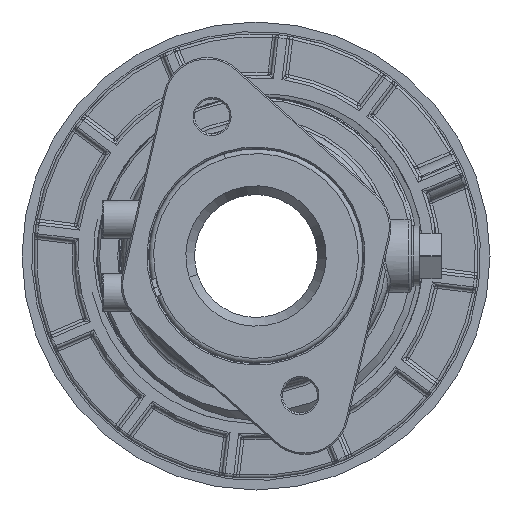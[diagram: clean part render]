
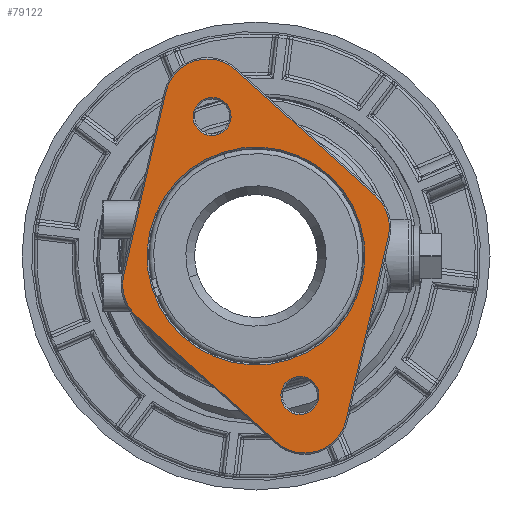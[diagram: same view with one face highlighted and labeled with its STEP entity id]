
A CAD part, front view. The second image highlights one B-rep face of the part: STEP entity #79122.
In plain terms, the highlighted planar face has unit normal (0, -1, 0).
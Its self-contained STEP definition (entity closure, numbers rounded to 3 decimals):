
#624 = DIRECTION ( 'NONE',  ( 0.954, 0., 0.3 ) ) ;
#645 = CIRCLE ( 'NONE', #99976, 14.5 ) ;
#1288 = CIRCLE ( 'NONE', #70374, 6.5 ) ;
#1531 = LINE ( 'NONE', #87776, #85499 ) ;
#1715 = DIRECTION ( 'NONE',  ( 0., -1., 0. ) ) ;
#3174 = VERTEX_POINT ( 'NONE', #93128 ) ;
#8175 = ORIENTED_EDGE ( 'NONE', *, *, #17943, .T. ) ;
#9799 = EDGE_CURVE ( 'NONE', #89991, #42649, #67477, .T. ) ;
#10251 = CARTESIAN_POINT ( 'NONE',  ( -30.46, -88.004, 49.677 ) ) ;
#11202 = ORIENTED_EDGE ( 'NONE', *, *, #81488, .T. ) ;
#11583 = VECTOR ( 'NONE', #19047, 1000. ) ;
#12299 = VERTEX_POINT ( 'NONE', #37599 ) ;
#12902 = CARTESIAN_POINT ( 'NONE',  ( -0.441, -88.004, -45.71 ) ) ;
#13115 = ORIENTED_EDGE ( 'NONE', *, *, #85535, .T. ) ;
#13117 = AXIS2_PLACEMENT_3D ( 'NONE', #93410, #44833, #101630 ) ;
#13726 = EDGE_CURVE ( 'NONE', #85633, #103219, #33289, .T. ) ;
#16445 = EDGE_CURVE ( 'NONE', #59158, #99025, #47020, .T. ) ;
#16960 = VERTEX_POINT ( 'NONE', #78621 ) ;
#17943 = EDGE_CURVE ( 'NONE', #99025, #59158, #96279, .T. ) ;
#18451 = DIRECTION ( 'NONE',  ( 0.954, 0., 0.3 ) ) ;
#19047 = DIRECTION ( 'NONE',  ( 0.225, 0., 0.974 ) ) ;
#19513 = ORIENTED_EDGE ( 'NONE', *, *, #73453, .T. ) ;
#21115 = DIRECTION ( 'NONE',  ( 0.954, 0., 0.3 ) ) ;
#22645 = ORIENTED_EDGE ( 'NONE', *, *, #33401, .T. ) ;
#23661 = CARTESIAN_POINT ( 'NONE',  ( -46.544, -88.004, -7.802 ) ) ;
#24211 = VECTOR ( 'NONE', #94409, 1000. ) ;
#25877 = DIRECTION ( 'NONE',  ( 0., -1., 0. ) ) ;
#28121 = AXIS2_PLACEMENT_3D ( 'NONE', #50527, #1715, #58678 ) ;
#28308 = DIRECTION ( 'NONE',  ( 0., 1., 0. ) ) ;
#28672 = ORIENTED_EDGE ( 'NONE', *, *, #52941, .T. ) ;
#29034 = VERTEX_POINT ( 'NONE', #34587 ) ;
#29112 = CARTESIAN_POINT ( 'NONE',  ( 13.088, -88.004, 33.607 ) ) ;
#29321 = ORIENTED_EDGE ( 'NONE', *, *, #45189, .T. ) ;
#31286 = DIRECTION ( 'NONE',  ( -0.225, 0., -0.974 ) ) ;
#31826 = DIRECTION ( 'NONE',  ( 0.954, 0., 0.3 ) ) ;
#33289 = LINE ( 'NONE', #58206, #11583 ) ;
#33401 = EDGE_CURVE ( 'NONE', #39825, #3174, #53544, .T. ) ;
#33607 = DIRECTION ( 'NONE',  ( 0., 1., 0. ) ) ;
#34587 = CARTESIAN_POINT ( 'NONE',  ( 25.358, -88.004, 22.534 ) ) ;
#34686 = AXIS2_PLACEMENT_3D ( 'NONE', #41181, #97959, #49336 ) ;
#35803 = ORIENTED_EDGE ( 'NONE', *, *, #47780, .T. ) ;
#35867 = ORIENTED_EDGE ( 'NONE', *, *, #13726, .T. ) ;
#37599 = CARTESIAN_POINT ( 'NONE',  ( -60.376, -88.004, -12.155 ) ) ;
#38104 = CARTESIAN_POINT ( 'NONE',  ( -46.544, -88.004, -7.802 ) ) ;
#38504 = DIRECTION ( 'NONE',  ( 0., 1., 0. ) ) ;
#39825 = VERTEX_POINT ( 'NONE', #84712 ) ;
#41181 = CARTESIAN_POINT ( 'NONE',  ( -32.086, -88.004, 54.843 ) ) ;
#41352 = EDGE_LOOP ( 'NONE', ( #8175, #55582 ) ) ;
#41654 = CARTESIAN_POINT ( 'NONE',  ( 15.314, -88.004, -54.137 ) ) ;
#42649 = VERTEX_POINT ( 'NONE', #84180 ) ;
#44833 = DIRECTION ( 'NONE',  ( 0., 1., 0. ) ) ;
#45189 = EDGE_CURVE ( 'NONE', #29034, #39825, #90624, .T. ) ;
#45663 = CIRCLE ( 'NONE', #78556, 14.5 ) ;
#45757 = CARTESIAN_POINT ( 'NONE',  ( 20.081, -88.004, 13.166 ) ) ;
#46302 = DIRECTION ( 'NONE',  ( 0.954, 0., 0.3 ) ) ;
#47020 = CIRCLE ( 'NONE', #50433, 6.5 ) ;
#47498 = VECTOR ( 'NONE', #77856, 1000. ) ;
#47780 = EDGE_CURVE ( 'NONE', #68113, #12299, #645, .T. ) ;
#49336 = DIRECTION ( 'NONE',  ( 0.954, 0., 0.3 ) ) ;
#49439 = DIRECTION ( 'NONE',  ( 0., -1., 0. ) ) ;
#49452 = FACE_BOUND ( 'NONE', #41352, .T. ) ;
#50433 = AXIS2_PLACEMENT_3D ( 'NONE', #10251, #67199, #18451 ) ;
#50527 = CARTESIAN_POINT ( 'NONE',  ( 15.643, -88.004, 11.769 ) ) ;
#50558 = EDGE_CURVE ( 'NONE', #62832, #87520, #90516, .T. ) ;
#52002 = FACE_BOUND ( 'NONE', #53040, .T. ) ;
#52941 = EDGE_CURVE ( 'NONE', #87520, #62832, #1288, .T. ) ;
#53040 = EDGE_LOOP ( 'NONE', ( #104456, #28672 ) ) ;
#53544 = CIRCLE ( 'NONE', #34686, 14.5 ) ;
#54947 = CARTESIAN_POINT ( 'NONE',  ( -56.259, -88.004, -18.567 ) ) ;
#55582 = ORIENTED_EDGE ( 'NONE', *, *, #16445, .T. ) ;
#57553 = PLANE ( 'NONE',  #76214 ) ;
#58206 = CARTESIAN_POINT ( 'NONE',  ( 26.055, -88.004, -7.596 ) ) ;
#58678 = DIRECTION ( 'NONE',  ( 0.954, 0., 0.3 ) ) ;
#59158 = VERTEX_POINT ( 'NONE', #75314 ) ;
#59231 = CARTESIAN_POINT ( 'NONE',  ( -24.26, -88.004, 51.629 ) ) ;
#62037 = EDGE_LOOP ( 'NONE', ( #22645, #13115, #35803, #64986, #75523, #93940, #35867, #11202, #29321 ) ) ;
#62832 = VERTEX_POINT ( 'NONE', #78923 ) ;
#64986 = ORIENTED_EDGE ( 'NONE', *, *, #88163, .T. ) ;
#66828 = AXIS2_PLACEMENT_3D ( 'NONE', #12902, #69851, #21115 ) ;
#67199 = DIRECTION ( 'NONE',  ( 0., 1., 0. ) ) ;
#67477 = LINE ( 'NONE', #78107, #24211 ) ;
#67596 = CIRCLE ( 'NONE', #100171, 37.25 ) ;
#68113 = VERTEX_POINT ( 'NONE', #96298 ) ;
#68169 = EDGE_CURVE ( 'NONE', #42649, #85633, #84802, .T. ) ;
#69851 = DIRECTION ( 'NONE',  ( 0., 1., 0. ) ) ;
#70374 = AXIS2_PLACEMENT_3D ( 'NONE', #77060, #28308, #85192 ) ;
#71033 = FACE_OUTER_BOUND ( 'NONE', #62037, .T. ) ;
#71723 = CIRCLE ( 'NONE', #13117, 37.25 ) ;
#72868 = ORIENTED_EDGE ( 'NONE', *, *, #95088, .T. ) ;
#73453 = EDGE_CURVE ( 'NONE', #73857, #16960, #71723, .T. ) ;
#73857 = VERTEX_POINT ( 'NONE', #45757 ) ;
#74428 = CIRCLE ( 'NONE', #28121, 14.5 ) ;
#74602 = CARTESIAN_POINT ( 'NONE',  ( -15.451, -88.004, 1.983 ) ) ;
#74938 = CARTESIAN_POINT ( 'NONE',  ( 29.772, -88.004, 8.508 ) ) ;
#75314 = CARTESIAN_POINT ( 'NONE',  ( -36.661, -88.004, 47.726 ) ) ;
#75523 = ORIENTED_EDGE ( 'NONE', *, *, #9799, .T. ) ;
#76214 = AXIS2_PLACEMENT_3D ( 'NONE', #74602, #25877, #82774 ) ;
#76371 = AXIS2_PLACEMENT_3D ( 'NONE', #82269, #33607, #90383 ) ;
#77060 = CARTESIAN_POINT ( 'NONE',  ( -0.441, -88.004, -45.71 ) ) ;
#77856 = DIRECTION ( 'NONE',  ( -0.742, 0., 0.67 ) ) ;
#78107 = CARTESIAN_POINT ( 'NONE',  ( -43.989, -88.004, -29.64 ) ) ;
#78187 = EDGE_LOOP ( 'NONE', ( #19513, #72868 ) ) ;
#78556 = AXIS2_PLACEMENT_3D ( 'NONE', #38104, #94882, #46302 ) ;
#78621 = CARTESIAN_POINT ( 'NONE',  ( -50.982, -88.004, -9.199 ) ) ;
#78923 = CARTESIAN_POINT ( 'NONE',  ( 5.76, -88.004, -43.759 ) ) ;
#79122 = ADVANCED_FACE ( 'NONE', ( #71033, #52002, #49452, #92625 ), #57553, .T. ) ;
#80533 = DIRECTION ( 'NONE',  ( 0., -1., 0. ) ) ;
#81488 = EDGE_CURVE ( 'NONE', #103219, #29034, #74428, .T. ) ;
#82269 = CARTESIAN_POINT ( 'NONE',  ( -30.46, -88.004, 49.677 ) ) ;
#82774 = DIRECTION ( 'NONE',  ( 0.954, 0., 0.3 ) ) ;
#84180 = CARTESIAN_POINT ( 'NONE',  ( -8.53, -88.004, -61.641 ) ) ;
#84712 = CARTESIAN_POINT ( 'NONE',  ( -22.372, -88.004, 65.607 ) ) ;
#84802 = CIRCLE ( 'NONE', #97887, 14.5 ) ;
#85192 = DIRECTION ( 'NONE',  ( 0.954, 0., 0.3 ) ) ;
#85499 = VECTOR ( 'NONE', #31286, 1000. ) ;
#85535 = EDGE_CURVE ( 'NONE', #3174, #68113, #1531, .T. ) ;
#85633 = VERTEX_POINT ( 'NONE', #41654 ) ;
#87089 = CARTESIAN_POINT ( 'NONE',  ( -15.451, -88.004, 1.983 ) ) ;
#87520 = VERTEX_POINT ( 'NONE', #89023 ) ;
#87776 = CARTESIAN_POINT ( 'NONE',  ( -56.956, -88.004, 11.563 ) ) ;
#88163 = EDGE_CURVE ( 'NONE', #12299, #89991, #45663, .T. ) ;
#89023 = CARTESIAN_POINT ( 'NONE',  ( -6.641, -88.004, -47.662 ) ) ;
#89991 = VERTEX_POINT ( 'NONE', #54947 ) ;
#90383 = DIRECTION ( 'NONE',  ( 0.954, 0., 0.3 ) ) ;
#90516 = CIRCLE ( 'NONE', #66828, 6.5 ) ;
#90624 = LINE ( 'NONE', #29112, #47498 ) ;
#92625 = FACE_BOUND ( 'NONE', #78187, .T. ) ;
#93128 = CARTESIAN_POINT ( 'NONE',  ( -46.215, -88.004, 58.104 ) ) ;
#93410 = CARTESIAN_POINT ( 'NONE',  ( -15.451, -88.004, 1.983 ) ) ;
#93940 = ORIENTED_EDGE ( 'NONE', *, *, #68169, .T. ) ;
#94409 = DIRECTION ( 'NONE',  ( 0.742, 0., -0.67 ) ) ;
#94882 = DIRECTION ( 'NONE',  ( 0., -1., 0. ) ) ;
#95088 = EDGE_CURVE ( 'NONE', #16960, #73857, #67596, .T. ) ;
#95263 = DIRECTION ( 'NONE',  ( 0.954, 0., 0.3 ) ) ;
#96279 = CIRCLE ( 'NONE', #76371, 6.5 ) ;
#96298 = CARTESIAN_POINT ( 'NONE',  ( -60.673, -88.004, -4.541 ) ) ;
#97887 = AXIS2_PLACEMENT_3D ( 'NONE', #98066, #49439, #624 ) ;
#97959 = DIRECTION ( 'NONE',  ( 0., -1., 0. ) ) ;
#98066 = CARTESIAN_POINT ( 'NONE',  ( 1.185, -88.004, -50.876 ) ) ;
#99025 = VERTEX_POINT ( 'NONE', #59231 ) ;
#99976 = AXIS2_PLACEMENT_3D ( 'NONE', #23661, #80533, #31826 ) ;
#100171 = AXIS2_PLACEMENT_3D ( 'NONE', #87089, #38504, #95263 ) ;
#101630 = DIRECTION ( 'NONE',  ( 0.954, 0., 0.3 ) ) ;
#103219 = VERTEX_POINT ( 'NONE', #74938 ) ;
#104456 = ORIENTED_EDGE ( 'NONE', *, *, #50558, .T. ) ;
